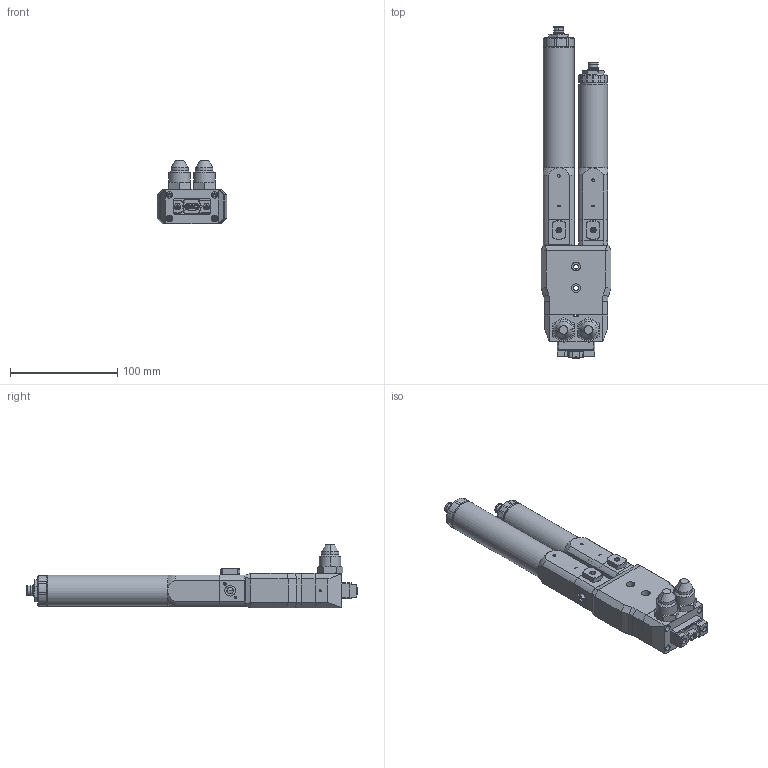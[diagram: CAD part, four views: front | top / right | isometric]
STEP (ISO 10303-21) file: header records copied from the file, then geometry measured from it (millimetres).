
FILE_DESCRIPTION (( 'STEP AP214' ), '1' );
FILE_NAME ('PDPM-150-015BA.STEP', '2024-10-11T12:07:51', ( '' ), ( '' ), 'SwSTEP 2.0', 'SolidWorks 2024', '' );
FILE_SCHEMA (( 'AUTOMOTIVE_DESIGN' ));
Length unit declared in the file: millimetre
Products named in the file (1): PDPM-150-015BA
Bounding box: 65 x 309 x 59.3 mm (x, y, z)
Volume: 419772 mm3; surface area: 100775.7 mm2
Topology: 13 solids, 13 shells, 1341 faces, 3299 edges, 2070 vertices
Faces by surface type: cylinder 529, plane 503, cone 277, bspline 18, torus 8, sphere 6
Full cylindrical faces by diameter (mm): 27 x1, 29 x1
Entity records: 53218 total; most frequent: CARTESIAN_POINT 22031, ORIENTED_EDGE 6496, DIRECTION 6426, EDGE_CURVE 3248, AXIS2_PLACEMENT_3D 2504, VERTEX_POINT 2069, EDGE_LOOP 1519, VECTOR 1418
